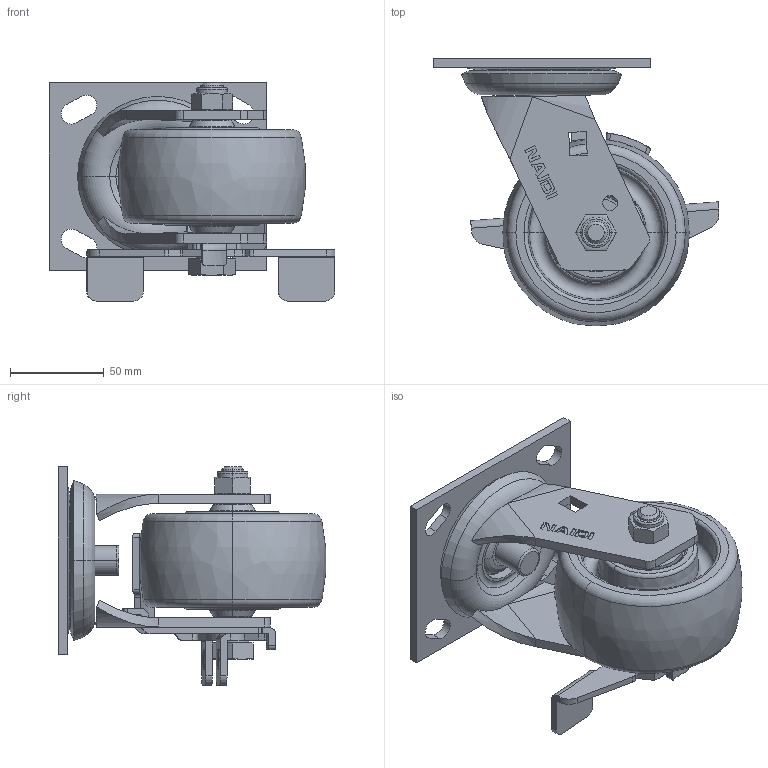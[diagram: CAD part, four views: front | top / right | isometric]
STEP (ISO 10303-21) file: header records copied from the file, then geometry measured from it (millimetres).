
FILE_DESCRIPTION((''),'2;1');
FILE_NAME('C74114_ASM','2024-06-27T',('Lenovo'),(''),'PRO/ENGINEER BY PARAMETRIC TECHNOLOGY CORPORATION, 2010280','PRO/ENGINEER BY PARAMETRIC TECHNOLOGY CORPORATION, 2010280','');
FILE_SCHEMA(('CONFIG_CONTROL_DESIGN'));
Length unit declared in the file: millimetre
Products named in the file (13): C7410-201; C7410-211; C7414-353; 7310-051; C744-906; C7410-008; C740-68; C744-08_ASM; 704-15; 700-14; 700C-33; 7010-34; C74114_ASM
Assembly tree (13 placements, depth 3):
  C74114_ASM
    C7410-201
    C7410-211
    C7414-353
    7310-051
    C744-08_ASM
      C744-906
      C7410-008
      C740-68  x2
    704-15
    700-14
    700C-33
    7010-34
Bounding box: 152.65 x 142.68 x 116.5 mm (x, y, z)
Volume: 461422 mm3; surface area: 142301 mm2
Topology: 13 solids, 13 shells, 588 faces, 1460 edges, 932 vertices
Faces by surface type: plane 316, cylinder 139, torus 77, cone 46, bspline 10
Entity records: 17834 total; most frequent: CARTESIAN_POINT 3673, DIRECTION 2970, ORIENTED_EDGE 2840, EDGE_CURVE 1420, AXIS2_PLACEMENT_3D 1030, VECTOR 910, LINE 910, VERTEX_POINT 908
